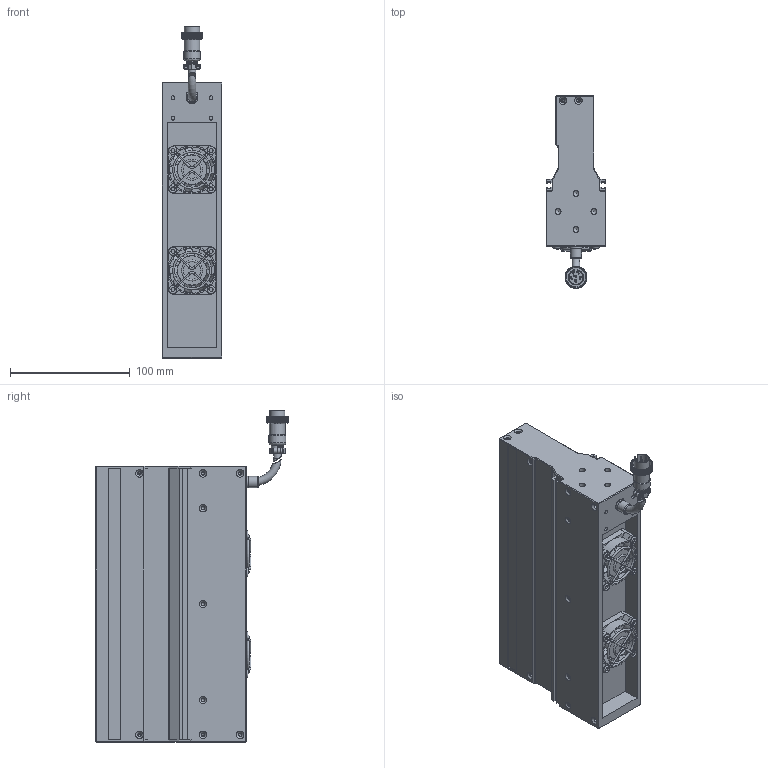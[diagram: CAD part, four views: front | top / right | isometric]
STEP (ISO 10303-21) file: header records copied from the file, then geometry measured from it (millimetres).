
FILE_DESCRIPTION (( 'STEP AP203' ), '1' );
FILE_NAME ('OPT-LSSC230-W-V3.1U尨砩芞.STEP', '2025-02-05T01:37:23', ( 'USER' ), ( '' ), 'SwSTEP 2.0', 'SolidWorks 2016', '' );
FILE_SCHEMA (( 'CONFIG_CONTROL_DESIGN' ));
Products named in the file (2): OPT-LSSC230-W-V3.1U尨砩芞
Bounding box: 50 x 160.65 x 276.83 mm (x, y, z)
Volume: 896568.7 mm3; surface area: 189708.9 mm2
Topology: 14 solids, 26 shells, 3808 faces, 8449 edges, 4762 vertices
Faces by surface type: bspline 2113, cylinder 775, plane 771, torus 82, cone 67
Full cylindrical faces by diameter (mm): 0.95 x6, 1.6 x8, 2 x6, 2.5 x22, 3.2 x12, 3.4 x24, 3.5 x8, 5 x8, 6.2 x8, 6.4 x3, 7.5 x1, 8.6 x1, 9.3 x1, 9.8 x1, 10 x1, 13.2 x1, 14 x1, 16.1 x1, 24.8 x2, 38 x2
Entity records: 127751 total; most frequent: CARTESIAN_POINT 63727, ORIENTED_EDGE 16276, EDGE_CURVE 8138, DIRECTION 6596, B_SPLINE_CURVE_WITH_KNOTS 5590, VERTEX_POINT 4681, EDGE_LOOP 4141, FACE_OUTER_BOUND 3969
